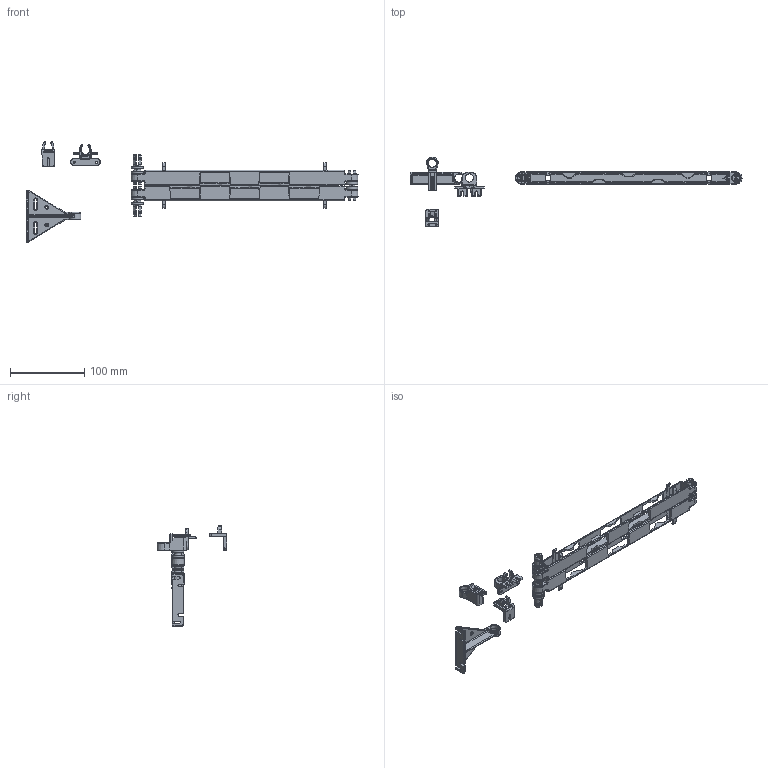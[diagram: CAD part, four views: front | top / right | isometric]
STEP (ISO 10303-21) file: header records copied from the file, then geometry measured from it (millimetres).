
FILE_DESCRIPTION (( 'STEP AP214' ), '1' );
FILE_NAME ('Wing_159909127800.STEP', '2022-12-15T08:36:46', ( '' ), ( '' ), 'SwSTEP 2.0', 'SolidWorks 2020', '' );
FILE_SCHEMA (( 'AUTOMOTIVE_DESIGN' ));
Length unit declared in the file: millimetre
Products named in the file (1): Wing_159909127800
Bounding box: 447.24 x 93.74 x 135.01 mm (x, y, z)
Volume: 91475.2 mm3; surface area: 77999.2 mm2
Topology: 9 solids, 9 shells, 2417 faces, 6400 edges, 4064 vertices
Faces by surface type: plane 1006, bspline 585, cylinder 557, torus 119, cone 76, sphere 74
Full cylindrical faces by diameter (mm): 3 x2, 10.8 x6, 16 x3
Entity records: 84072 total; most frequent: CARTESIAN_POINT 29523, ORIENTED_EDGE 12582, DIRECTION 9334, EDGE_CURVE 6291, VERTEX_POINT 4029, VECTOR 3426, LINE 3426, AXIS2_PLACEMENT_3D 2954
